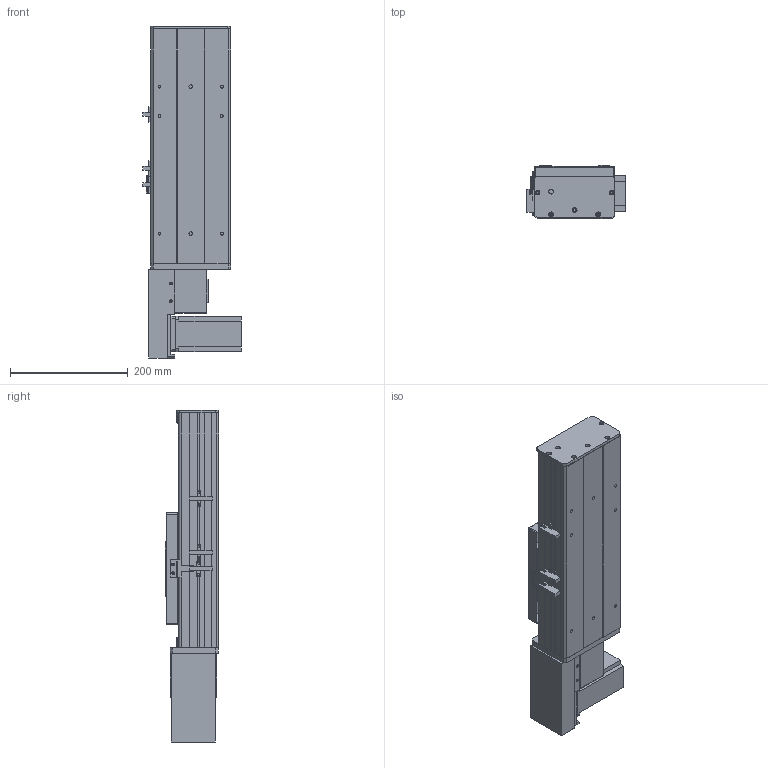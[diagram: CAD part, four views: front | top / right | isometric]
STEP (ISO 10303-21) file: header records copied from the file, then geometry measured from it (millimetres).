
FILE_DESCRIPTION (( 'STEP AP203' ), '1' );
FILE_NAME ('Y135CB-D90-S100-BR-P400W.STEP', '2020-02-18T02:05:37', ( '微软用户' ), ( '微软中国' ), 'SwSTEP 2.0', 'SolidWorks 2017', '' );
FILE_SCHEMA (( 'CONFIG_CONTROL_DESIGN' ));
Length unit declared in the file: millimetre
Products named in the file (18): Y10B--々湍喘謫眊--666; san松下电机400不带刹车----; Y135CB-耜裔; Y135CB-D90-S100-BR-P400W; 5CB --掛极耜裔啣-; 135CB---遴掛极.-; C-詩湍揤踡え-陔; 35CB---喘謫眊楊擘啣; 135CB--詩湍-CE; Y10B-耜蚾蟀諉啣----; Y100-135俋离換覜ん--; Y俋欶BR----; Y135C-陔俋离換覜結え-; 0B-埴倛裔啣; 5C--俋欶; 0B-源倛裔啣; C-雄赽釱--; 0B-萇儂楊擘啣
Assembly tree (21 placements, depth 2):
  Y135CB-D90-S100-BR-P400W
    Y135CB-耜裔
    135CB---遴掛极.-
    35CB---喘謫眊楊擘啣
    Y10B-耜蚾蟀諉啣----
    Y俋欶BR----
    0B-埴倛裔啣
    0B-源倛裔啣
    0B-萇儂楊擘啣
    san松下电机400不带刹车----
    5CB --掛极耜裔啣-  x2
    C-詩湍揤踡え-陔  x2
    135CB--詩湍-CE
    Y100-135俋离換覜ん--  x3
    Y135C-陔俋离換覜結え-
    5C--俋欶
    C-雄赽釱--
    Y10B--々湍喘謫眊--666
Bounding box: 167.5 x 91 x 564.5 mm (x, y, z)
Volume: 2049968.3 mm3; surface area: 779107.3 mm2
Topology: 21 solids, 21 shells, 929 faces, 2455 edges, 1626 vertices
Faces by surface type: plane 458, cylinder 455, cone 16
Entity records: 28533 total; most frequent: DIRECTION 4735, CARTESIAN_POINT 4636, ORIENTED_EDGE 4386, EDGE_CURVE 2193, AXIS2_PLACEMENT_3D 1717, VERTEX_POINT 1454, VECTOR 1301, LINE 1301
